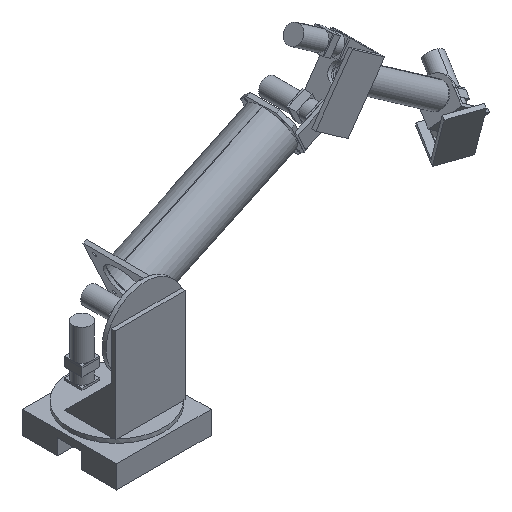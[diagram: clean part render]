
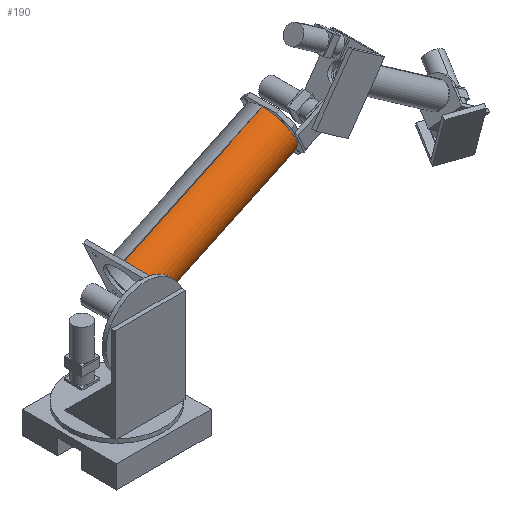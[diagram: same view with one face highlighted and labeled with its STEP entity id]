
A CAD part, isometric view. The second image highlights one B-rep face of the part: STEP entity #190.
In plain terms, the highlighted cylindrical face has radius 76.2 mm (diameter 152.4 mm), a partial arc.
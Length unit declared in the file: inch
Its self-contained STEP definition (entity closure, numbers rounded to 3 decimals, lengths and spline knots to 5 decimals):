
#149 = VERTEX_POINT ( 'NONE', #9022 ) ;
#150 = VERTEX_POINT ( 'NONE', #9021 ) ;
#152 = EDGE_CURVE ( 'NONE', #150, #153, #9016, .T. ) ;
#153 = VERTEX_POINT ( 'NONE', #9011 ) ;
#156 = VERTEX_POINT ( 'NONE', #8998 ) ;
#190 = ADVANCED_FACE ( 'NONE', ( #9146 ), #9137, .T. ) ;
#191 = EDGE_LOOP ( 'NONE', ( #192, #193, #194, #195 ) ) ;
#192 = ORIENTED_EDGE ( 'NONE', *, *, #152, .F. ) ;
#193 = ORIENTED_EDGE ( 'NONE', *, *, #207, .T. ) ;
#194 = ORIENTED_EDGE ( 'NONE', *, *, #4968, .T. ) ;
#195 = ORIENTED_EDGE ( 'NONE', *, *, #214, .T. ) ;
#207 = EDGE_CURVE ( 'NONE', #150, #149, #9311, .T. ) ;
#214 = EDGE_CURVE ( 'NONE', #156, #153, #9288, .T. ) ;
#2042 = DIRECTION ( 'NONE',  ( 0.906, 0., 0.423 ) ) ;
#2044 = VECTOR ( 'NONE', #2042, 39.37008 ) ;
#2046 = CARTESIAN_POINT ( 'NONE',  ( 11.47836, 10.60256, 9.2461 ) ) ;
#2047 = LINE ( 'NONE', #2046, #2044 ) ;
#4968 = EDGE_CURVE ( 'NONE', #149, #156, #2047, .T. ) ;
#8998 = CARTESIAN_POINT ( 'NONE',  ( 29.60451, 10.60256, 17.69847 ) ) ;
#9011 = CARTESIAN_POINT ( 'NONE',  ( 27.0688, 10.60256, 23.13632 ) ) ;
#9012 = DIRECTION ( 'NONE',  ( 0.906, 0., 0.423 ) ) ;
#9013 = VECTOR ( 'NONE', #9012, 39.37008 ) ;
#9014 = CARTESIAN_POINT ( 'NONE',  ( 8.94265, 10.60256, 14.68395 ) ) ;
#9016 = LINE ( 'NONE', #9014, #9013 ) ;
#9021 = CARTESIAN_POINT ( 'NONE',  ( 8.94265, 10.60256, 14.68395 ) ) ;
#9022 = CARTESIAN_POINT ( 'NONE',  ( 11.47836, 10.60256, 9.2461 ) ) ;
#9134 = DIRECTION ( 'NONE',  ( 0.423, 0., -0.906 ) ) ;
#9135 = DIRECTION ( 'NONE',  ( 0.906, 0., 0.423 ) ) ;
#9136 = AXIS2_PLACEMENT_3D ( 'NONE', #9145, #9135, #9134 ) ;
#9137 = CYLINDRICAL_SURFACE ( 'NONE', #9136, 3. ) ;
#9145 = CARTESIAN_POINT ( 'NONE',  ( 10.2105, 10.60256, 11.96503 ) ) ;
#9146 = FACE_OUTER_BOUND ( 'NONE', #191, .T. ) ;
#9188 = CARTESIAN_POINT ( 'NONE',  ( 10.2105, 10.60256, 11.96503 ) ) ;
#9280 = DIRECTION ( 'NONE',  ( 0.423, 0., -0.906 ) ) ;
#9283 = DIRECTION ( 'NONE',  ( -0.906, 0., -0.423 ) ) ;
#9285 = CARTESIAN_POINT ( 'NONE',  ( 28.33666, 10.60256, 20.41739 ) ) ;
#9287 = AXIS2_PLACEMENT_3D ( 'NONE', #9285, #9283, #9280 ) ;
#9288 = CIRCLE ( 'NONE', #9287, 3. ) ;
#9307 = DIRECTION ( 'NONE',  ( 0.423, 0., -0.906 ) ) ;
#9308 = DIRECTION ( 'NONE',  ( 0.906, 0., 0.423 ) ) ;
#9310 = AXIS2_PLACEMENT_3D ( 'NONE', #9188, #9308, #9307 ) ;
#9311 = CIRCLE ( 'NONE', #9310, 3. ) ;
